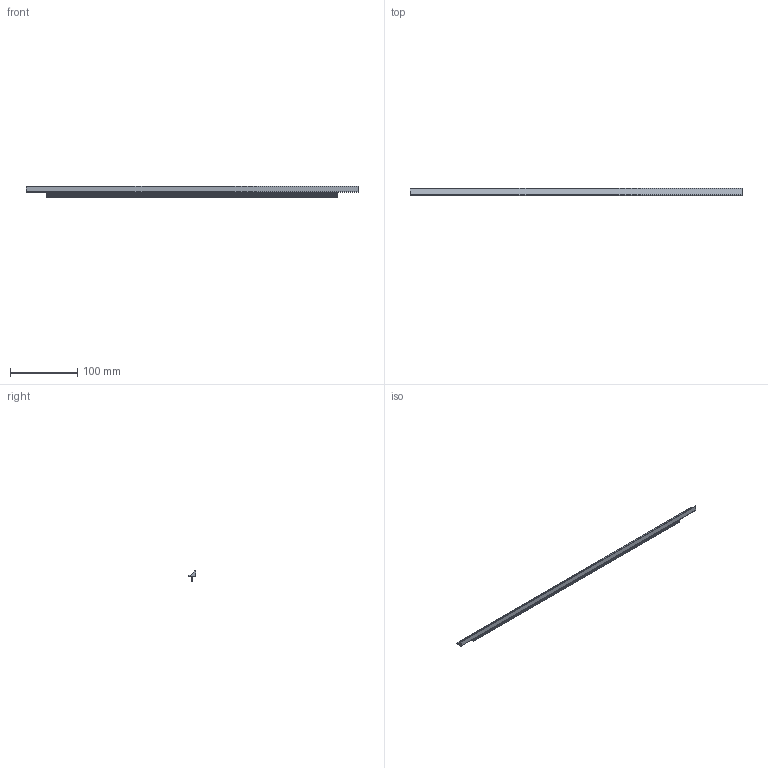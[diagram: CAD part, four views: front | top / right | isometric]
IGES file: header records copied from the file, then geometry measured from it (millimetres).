
Start section: Data from Parasolid IGES Translator 20.0.26, Copyright(c) 2006 Siemens P LM Software. All Rights Reserved.
Global section: file name: 9208100.igs; native system: By Siemens PLM Incorporated; preprocessor: XPlus GENERIC/IGES 20.0.26; author: Noname; organization: Noname; date: 20211115.182628; units: millimetre
Bounding box: 495 x 10.49 x 16.51 mm (x, y, z)
Surface area: 24711.6 mm2 (no closed solid volume)
Topology: 0 solids, 0 shells, 30 faces, 162 edges, 162 vertices
Faces by surface type: extrusion 25, revolution 5
